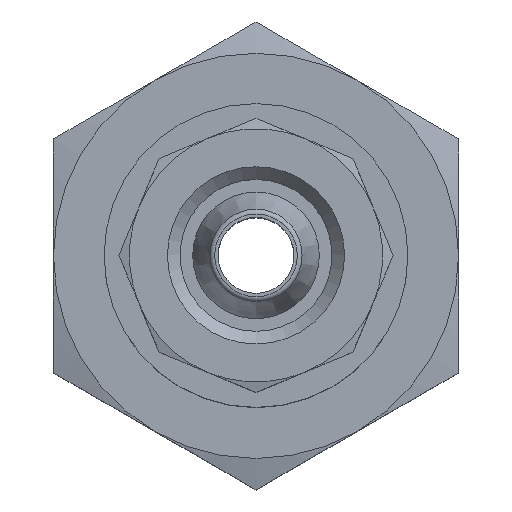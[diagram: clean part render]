
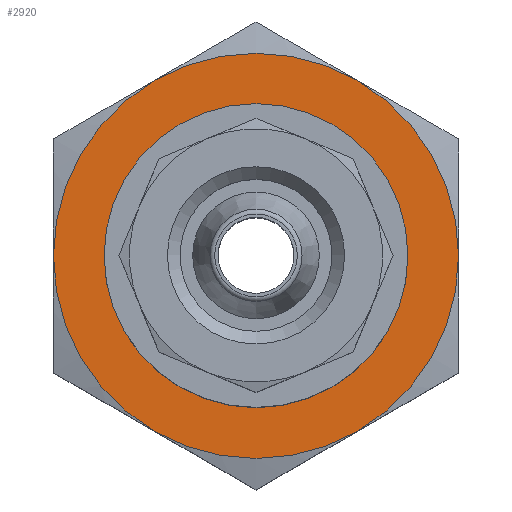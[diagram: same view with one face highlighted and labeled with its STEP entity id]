
A CAD part, top view. The second image highlights one B-rep face of the part: STEP entity #2920.
In plain terms, the highlighted planar face has unit normal (0, 0, 1) as drawn and (0, 1, 0) by its records, which use the part's own axes.
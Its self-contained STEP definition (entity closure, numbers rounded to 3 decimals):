
#1348=PLANE('',#2756);
#1402=ORIENTED_EDGE('',*,*,#1760,.T.);
#1403=ORIENTED_EDGE('',*,*,#1761,.T.);
#1404=ORIENTED_EDGE('',*,*,#1762,.T.);
#1405=ORIENTED_EDGE('',*,*,#1763,.T.);
#1406=ORIENTED_EDGE('',*,*,#1764,.F.);
#1407=ORIENTED_EDGE('',*,*,#1765,.T.);
#1408=ORIENTED_EDGE('',*,*,#1759,.F.);
#1621=CIRCLE('',#2755,4.25);
#1622=CIRCLE('',#2757,8.);
#1623=CIRCLE('',#2758,8.);
#1624=CIRCLE('',#2759,8.);
#1625=CIRCLE('',#2760,8.);
#1626=CIRCLE('',#2761,8.);
#1627=CIRCLE('',#2762,8.);
#1676=VERTEX_POINT('',#2496);
#1677=VERTEX_POINT('',#2499);
#1678=VERTEX_POINT('',#2500);
#1679=VERTEX_POINT('',#2502);
#1680=VERTEX_POINT('',#2504);
#1681=VERTEX_POINT('',#2506);
#1682=VERTEX_POINT('',#2508);
#1759=EDGE_CURVE('',#1676,#1676,#1621,.T.);
#1760=EDGE_CURVE('',#1677,#1678,#1622,.T.);
#1761=EDGE_CURVE('',#1678,#1679,#1623,.T.);
#1762=EDGE_CURVE('',#1679,#1680,#1624,.T.);
#1763=EDGE_CURVE('',#1680,#1681,#1625,.T.);
#1764=EDGE_CURVE('',#1682,#1681,#1626,.T.);
#1765=EDGE_CURVE('',#1682,#1677,#1627,.T.);
#1891=EDGE_LOOP('',(#1402,#1403,#1404,#1405,#1406,#1407));
#1892=EDGE_LOOP('',(#1408));
#1999=FACE_BOUND('',#1891,.T.);
#2000=FACE_BOUND('',#1892,.T.);
#2145=DIRECTION('',(0.,1.,0.));
#2146=DIRECTION('',(0.,0.,-4.25));
#2147=DIRECTION('',(0.,1.,0.));
#2148=DIRECTION('',(1.,0.,0.));
#2149=DIRECTION('',(0.,1.,0.));
#2150=DIRECTION('',(-4.,0.,6.928));
#2151=DIRECTION('',(0.,1.,0.));
#2152=DIRECTION('',(4.,0.,6.928));
#2153=DIRECTION('',(0.,1.,0.));
#2154=DIRECTION('',(8.,0.,0.));
#2155=DIRECTION('',(0.,1.,0.));
#2156=DIRECTION('',(4.,0.,-6.928));
#2157=DIRECTION('',(0.,-1.,0.));
#2158=DIRECTION('',(-8.,0.,0.));
#2159=DIRECTION('',(0.,1.,0.));
#2160=DIRECTION('',(-8.,0.,0.));
#2496=CARTESIAN_POINT('',(84.412,52.392,-4.25));
#2497=CARTESIAN_POINT('',(84.412,52.392,0.));
#2498=CARTESIAN_POINT('',(88.412,52.392,6.928));
#2499=CARTESIAN_POINT('',(80.412,52.392,6.928));
#2500=CARTESIAN_POINT('',(88.412,52.392,6.928));
#2501=CARTESIAN_POINT('',(84.412,52.392,0.));
#2502=CARTESIAN_POINT('',(92.412,52.392,0.));
#2503=CARTESIAN_POINT('',(84.412,52.392,0.));
#2504=CARTESIAN_POINT('',(88.412,52.392,-6.928));
#2505=CARTESIAN_POINT('',(84.412,52.392,0.));
#2506=CARTESIAN_POINT('',(80.412,52.392,-6.928));
#2507=CARTESIAN_POINT('',(84.412,52.392,0.));
#2508=CARTESIAN_POINT('',(76.412,52.392,0.));
#2509=CARTESIAN_POINT('',(84.412,52.392,0.));
#2510=CARTESIAN_POINT('',(84.412,52.392,0.));
#2755=AXIS2_PLACEMENT_3D('',#2497,#2145,#2146);
#2756=AXIS2_PLACEMENT_3D('',#2498,#2147,#2148);
#2757=AXIS2_PLACEMENT_3D('',#2501,#2149,#2150);
#2758=AXIS2_PLACEMENT_3D('',#2503,#2151,#2152);
#2759=AXIS2_PLACEMENT_3D('',#2505,#2153,#2154);
#2760=AXIS2_PLACEMENT_3D('',#2507,#2155,#2156);
#2761=AXIS2_PLACEMENT_3D('',#2509,#2157,#2158);
#2762=AXIS2_PLACEMENT_3D('',#2510,#2159,#2160);
#2920=ADVANCED_FACE('',(#1999,#2000),#1348,.T.);
